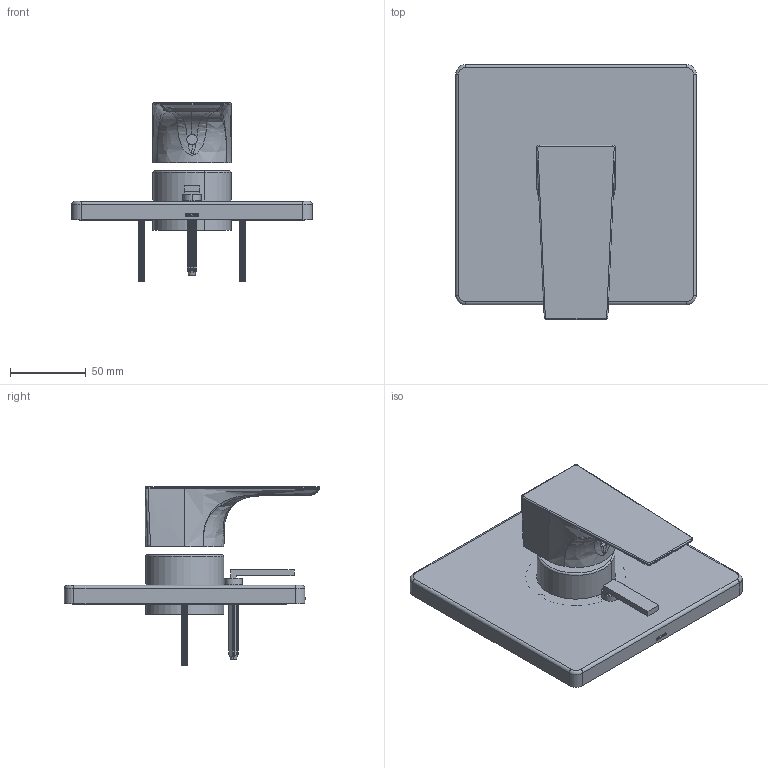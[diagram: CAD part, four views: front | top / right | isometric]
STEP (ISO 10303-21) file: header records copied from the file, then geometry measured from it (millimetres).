
FILE_DESCRIPTION (( 'STEP AP214' ), '1' );
FILE_NAME ('S4990TRM.STEP', '2025-01-02T03:13:19', ( '' ), ( '' ), 'SwSTEP 2.0', 'SolidWorks 2023', '' );
FILE_SCHEMA (( 'AUTOMOTIVE_DESIGN' ));
Products named in the file (1): S4990TRM
Bounding box: 158.75 x 168.53 x 117.98 mm (x, y, z)
Surface area: 125979.8 mm2 (no closed solid volume)
Topology: 0 solids, 119 shells, 1070 faces, 3248 edges, 2220 vertices
Faces by surface type: cylinder 549, cone 232, plane 224, bspline 43, torus 22
Entity records: 66065 total; most frequent: CARTESIAN_POINT 39014, ORIENTED_EDGE 5388, DIRECTION 5166, EDGE_CURVE 3246, VERTEX_POINT 2220, AXIS2_PLACEMENT_3D 1889, LINE 1388, VECTOR 1388
